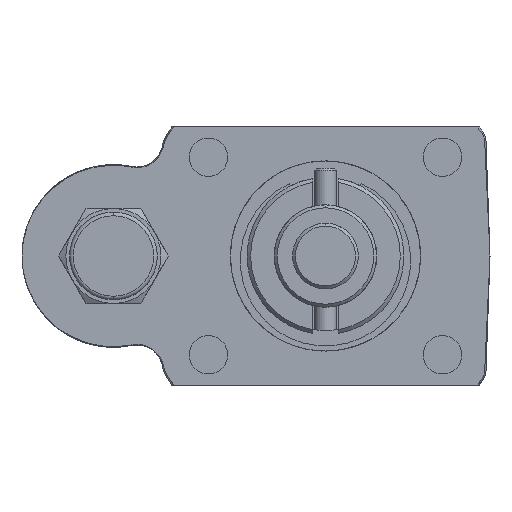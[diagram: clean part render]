
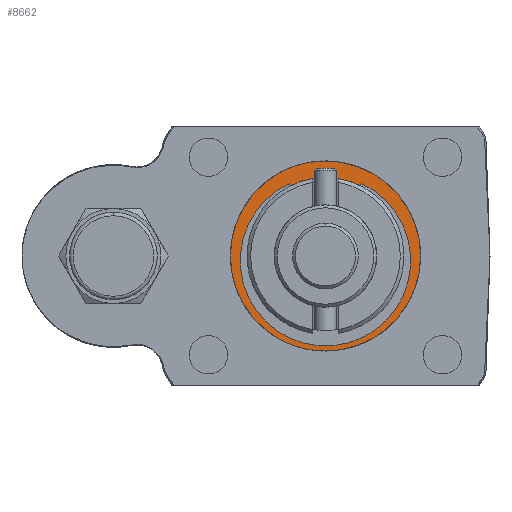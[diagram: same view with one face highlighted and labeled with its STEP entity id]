
A CAD part, front view. The second image highlights one B-rep face of the part: STEP entity #8662.
In plain terms, the highlighted planar face has unit normal (0, -1, 0).
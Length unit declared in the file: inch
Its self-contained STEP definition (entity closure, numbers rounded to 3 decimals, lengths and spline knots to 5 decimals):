
#8615=CARTESIAN_POINT('',(0.,-2.4125,0.));
#8616=DIRECTION('',(0.,1.,0.));
#8617=DIRECTION('',(0.,0.,1.));
#8618=AXIS2_PLACEMENT_3D('',#8615,#8616,#8617);
#8620=CARTESIAN_POINT('',(0.,-2.4125,0.));
#8621=DIRECTION('',(0.,1.,0.));
#8622=DIRECTION('',(0.,0.,-1.));
#8623=AXIS2_PLACEMENT_3D('',#8620,#8621,#8622);
#8643=CARTESIAN_POINT('',(0.,-2.4125,0.8125));
#8644=CARTESIAN_POINT('',(0.,-2.4125,-0.8125));
#8645=VERTEX_POINT('',#8643);
#8646=VERTEX_POINT('',#8644);
#8651=CARTESIAN_POINT('',(0.,-2.4125,0.));
#8652=DIRECTION('',(0.,1.,0.));
#8653=DIRECTION('',(0.,0.,1.));
#8654=AXIS2_PLACEMENT_3D('',#8651,#8652,#8653);
#8655=PLANE('',#8654);
#8657=ORIENTED_EDGE('',*,*,#8656,.T.);
#8659=ORIENTED_EDGE('',*,*,#8658,.T.);
#8660=EDGE_LOOP('',(#8657,#8659));
#8661=FACE_OUTER_BOUND('',#8660,.F.);
#8662=ADVANCED_FACE('',(#8661),#8655,.F.);
#8619=CIRCLE('',#8618,0.8125);
#8624=CIRCLE('',#8623,0.8125);
#8656=EDGE_CURVE('',#8645,#8646,#8619,.T.);
#8658=EDGE_CURVE('',#8646,#8645,#8624,.T.);
